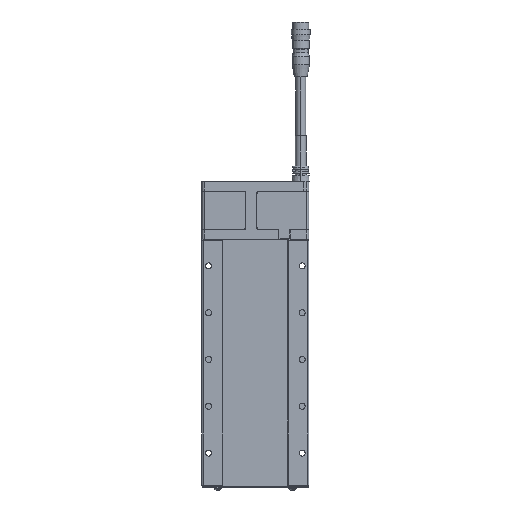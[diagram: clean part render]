
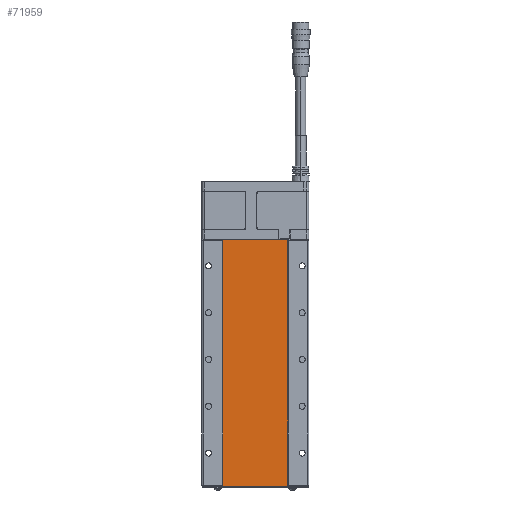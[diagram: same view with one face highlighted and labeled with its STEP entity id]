
A CAD part, front view. The second image highlights one B-rep face of the part: STEP entity #71959.
In plain terms, the highlighted planar face has unit normal (0, -1, 0).
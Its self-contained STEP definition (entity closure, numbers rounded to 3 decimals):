
#2990 = LINE ( 'NONE', #18963, #25712 ) ;
#9933 = EDGE_CURVE ( 'NONE', #80395, #84275, #25392, .T. ) ;
#12565 = ORIENTED_EDGE ( 'NONE', *, *, #9933, .T. ) ;
#18963 = CARTESIAN_POINT ( 'NONE',  ( -24.3, 0.5, 184.8 ) ) ;
#19030 = EDGE_CURVE ( 'NONE', #84275, #44601, #40372, .T. ) ;
#19536 = DIRECTION ( 'NONE',  ( -1., 0., 0. ) ) ;
#20672 = PLANE ( 'NONE',  #49318 ) ;
#25392 = LINE ( 'NONE', #60173, #78403 ) ;
#25712 = VECTOR ( 'NONE', #19536, 1000. ) ;
#37062 = CARTESIAN_POINT ( 'NONE',  ( -24.3, 0.5, 0.2 ) ) ;
#37223 = CARTESIAN_POINT ( 'NONE',  ( -24.3, 0.5, 184.8 ) ) ;
#38347 = CARTESIAN_POINT ( 'NONE',  ( -24.3, 0.5, 184.8 ) ) ;
#39296 = DIRECTION ( 'NONE',  ( 0., 0., -1. ) ) ;
#40372 = LINE ( 'NONE', #56904, #62374 ) ;
#41014 = VERTEX_POINT ( 'NONE', #37223 ) ;
#44601 = VERTEX_POINT ( 'NONE', #73796 ) ;
#48664 = CARTESIAN_POINT ( 'NONE',  ( -24.3, 0.5, 0.2 ) ) ;
#49033 = ORIENTED_EDGE ( 'NONE', *, *, #19030, .T. ) ;
#49318 = AXIS2_PLACEMENT_3D ( 'NONE', #38347, #107806, #99260 ) ;
#56904 = CARTESIAN_POINT ( 'NONE',  ( 24.3, 0.5, 0.2 ) ) ;
#58582 = DIRECTION ( 'NONE',  ( 0., 0., 1. ) ) ;
#59410 = CARTESIAN_POINT ( 'NONE',  ( 24.3, 0.5, 0.2 ) ) ;
#60173 = CARTESIAN_POINT ( 'NONE',  ( -24.3, 0.5, 0.2 ) ) ;
#62374 = VECTOR ( 'NONE', #58582, 1000. ) ;
#71959 = ADVANCED_FACE ( 'NONE', ( #74231 ), #20672, .F. ) ;
#73796 = CARTESIAN_POINT ( 'NONE',  ( 24.3, 0.5, 184.8 ) ) ;
#73835 = EDGE_LOOP ( 'NONE', ( #86640, #12565, #49033, #81148 ) ) ;
#74231 = FACE_OUTER_BOUND ( 'NONE', #73835, .T. ) ;
#78123 = LINE ( 'NONE', #37062, #102674 ) ;
#78403 = VECTOR ( 'NONE', #112545, 1000. ) ;
#80395 = VERTEX_POINT ( 'NONE', #48664 ) ;
#81118 = EDGE_CURVE ( 'NONE', #41014, #80395, #78123, .T. ) ;
#81148 = ORIENTED_EDGE ( 'NONE', *, *, #89934, .T. ) ;
#84275 = VERTEX_POINT ( 'NONE', #59410 ) ;
#86640 = ORIENTED_EDGE ( 'NONE', *, *, #81118, .T. ) ;
#89934 = EDGE_CURVE ( 'NONE', #44601, #41014, #2990, .T. ) ;
#99260 = DIRECTION ( 'NONE',  ( -1., 0., 0. ) ) ;
#102674 = VECTOR ( 'NONE', #39296, 1000. ) ;
#107806 = DIRECTION ( 'NONE',  ( 0., 1., 0. ) ) ;
#112545 = DIRECTION ( 'NONE',  ( 1., 0., 0. ) ) ;
